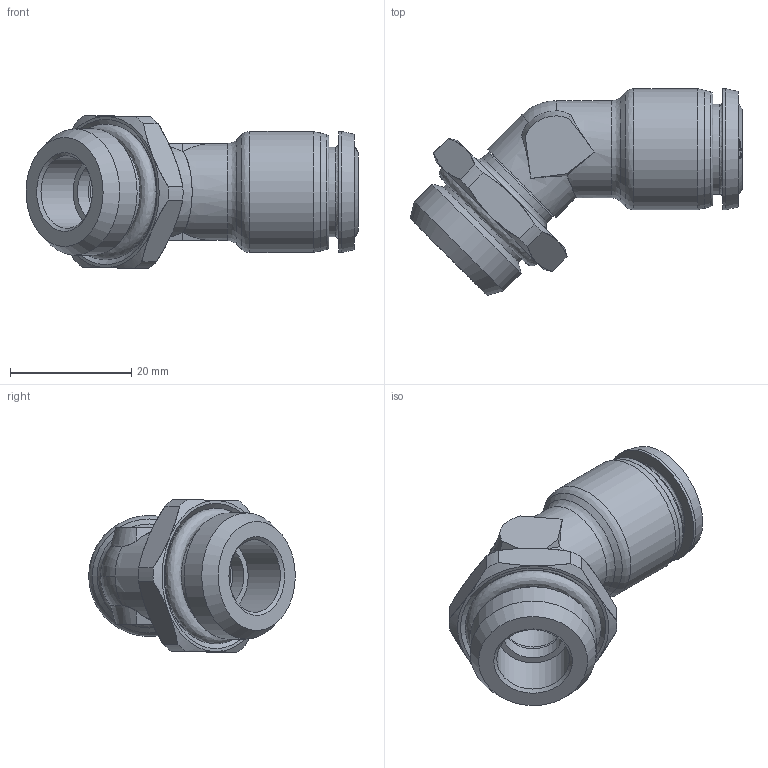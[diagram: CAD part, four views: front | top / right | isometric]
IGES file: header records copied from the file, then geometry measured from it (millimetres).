
Start section: SolidWorks IGES file using analytic representation for surfaces
Global section: file name: K:\Disegni Esecutivi\SERIE 55000\ASSIEMI_55000\55175\55175_igs\5517500026A.IGS; native system: SolidWorks 2012; preprocessor: SolidWorks 2012; author: cad05; date: 131015.162151; units: millimetre
Bounding box: 54.81 x 34.11 x 25.2 mm (x, y, z)
Surface area: 6538.9 mm2 (no closed solid volume)
Topology: 0 solids, 0 shells, 141 faces, 708 edges, 660 vertices
Faces by surface type: bspline 75, revolution 66
